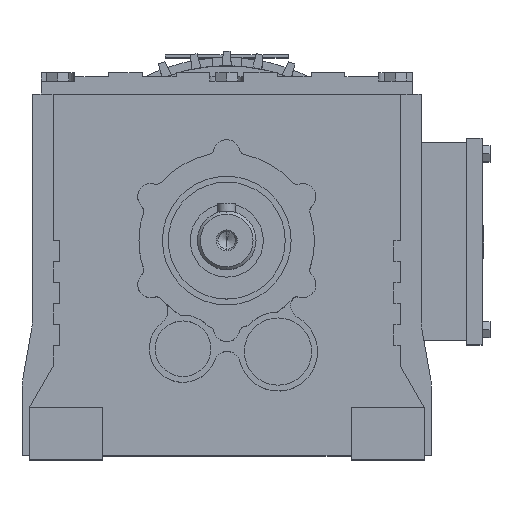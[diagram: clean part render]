
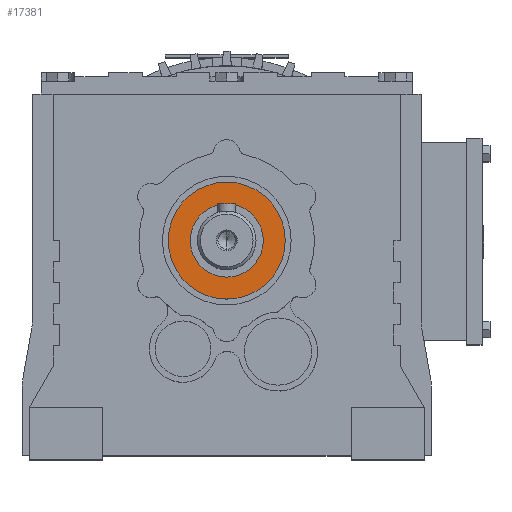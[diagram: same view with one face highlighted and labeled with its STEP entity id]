
A CAD part, top view. The second image highlights one B-rep face of the part: STEP entity #17381.
In plain terms, the highlighted planar face has unit normal (0, 0, 1).
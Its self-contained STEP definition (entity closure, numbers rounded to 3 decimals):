
#17228 = CYLINDRICAL_SURFACE('',#17229,20.);
#17229 = AXIS2_PLACEMENT_3D('',#17230,#17231,#17232);
#17230 = CARTESIAN_POINT('',(0.,0.,174.));
#17231 = DIRECTION('',(0.,0.,1.));
#17232 = DIRECTION('',(0.,-1.,0.));
#17258 = CYLINDRICAL_SURFACE('',#17259,20.);
#17259 = AXIS2_PLACEMENT_3D('',#17260,#17261,#17262);
#17260 = CARTESIAN_POINT('',(0.,0.,174.));
#17261 = DIRECTION('',(0.,0.,1.));
#17262 = DIRECTION('',(0.,-1.,0.));
#17287 = VERTEX_POINT('',#17288);
#17288 = CARTESIAN_POINT('',(0.,20.,131.));
#17309 = VERTEX_POINT('',#17310);
#17310 = CARTESIAN_POINT('',(0.,-20.,131.));
#17329 = EDGE_CURVE('',#17287,#17309,#17330,.T.);
#17330 = SURFACE_CURVE('',#17331,(#17336,#17342),.PCURVE_S1.);
#17331 = CIRCLE('',#17332,20.);
#17332 = AXIS2_PLACEMENT_3D('',#17333,#17334,#17335);
#17333 = CARTESIAN_POINT('',(0.,0.,131.));
#17334 = DIRECTION('',(0.,0.,-1.));
#17335 = DIRECTION('',(-1.,0.,0.));
#17336 = PCURVE('',#17228,#17337);
#17337 = DEFINITIONAL_REPRESENTATION('',(#17338),#17341);
#17338 = B_SPLINE_CURVE_WITH_KNOTS('',1,(#17339,#17340),.UNSPECIFIED.,
  .F.,.F.,(2,2),(1.571,4.712),
  .PIECEWISE_BEZIER_KNOTS.);
#17339 = CARTESIAN_POINT('',(3.142,-43.));
#17340 = CARTESIAN_POINT('',(0.,-43.));
#17341 = ( GEOMETRIC_REPRESENTATION_CONTEXT(2) 
PARAMETRIC_REPRESENTATION_CONTEXT() REPRESENTATION_CONTEXT('2D SPACE',''
  ) );
#17342 = PCURVE('',#17343,#17348);
#17343 = PLANE('',#17344);
#17344 = AXIS2_PLACEMENT_3D('',#17345,#17346,#17347);
#17345 = CARTESIAN_POINT('',(-3.282,15.788,131.));
#17346 = DIRECTION('',(0.,0.,-1.));
#17347 = DIRECTION('',(-1.,0.,0.));
#17348 = DEFINITIONAL_REPRESENTATION('',(#17349),#17353);
#17349 = CIRCLE('',#17350,20.);
#17350 = AXIS2_PLACEMENT_2D('',#17351,#17352);
#17351 = CARTESIAN_POINT('',(-3.282,-15.788));
#17352 = DIRECTION('',(1.,0.));
#17353 = ( GEOMETRIC_REPRESENTATION_CONTEXT(2) 
PARAMETRIC_REPRESENTATION_CONTEXT() REPRESENTATION_CONTEXT('2D SPACE',''
  ) );
#17358 = EDGE_CURVE('',#17309,#17287,#17359,.T.);
#17359 = SURFACE_CURVE('',#17360,(#17365,#17371),.PCURVE_S1.);
#17360 = CIRCLE('',#17361,20.);
#17361 = AXIS2_PLACEMENT_3D('',#17362,#17363,#17364);
#17362 = CARTESIAN_POINT('',(0.,0.,131.));
#17363 = DIRECTION('',(0.,0.,-1.));
#17364 = DIRECTION('',(-1.,0.,0.));
#17365 = PCURVE('',#17258,#17366);
#17366 = DEFINITIONAL_REPRESENTATION('',(#17367),#17370);
#17367 = B_SPLINE_CURVE_WITH_KNOTS('',1,(#17368,#17369),.UNSPECIFIED.,
  .F.,.F.,(2,2),(4.712,7.854),
  .PIECEWISE_BEZIER_KNOTS.);
#17368 = CARTESIAN_POINT('',(6.283,-43.));
#17369 = CARTESIAN_POINT('',(3.142,-43.));
#17370 = ( GEOMETRIC_REPRESENTATION_CONTEXT(2) 
PARAMETRIC_REPRESENTATION_CONTEXT() REPRESENTATION_CONTEXT('2D SPACE',''
  ) );
#17371 = PCURVE('',#17343,#17372);
#17372 = DEFINITIONAL_REPRESENTATION('',(#17373),#17377);
#17373 = CIRCLE('',#17374,20.);
#17374 = AXIS2_PLACEMENT_2D('',#17375,#17376);
#17375 = CARTESIAN_POINT('',(-3.282,-15.788));
#17376 = DIRECTION('',(1.,0.));
#17377 = ( GEOMETRIC_REPRESENTATION_CONTEXT(2) 
PARAMETRIC_REPRESENTATION_CONTEXT() REPRESENTATION_CONTEXT('2D SPACE',''
  ) );
#17381 = ADVANCED_FACE('',(#17382,#17386),#17343,.F.);
#17382 = FACE_BOUND('',#17383,.T.);
#17383 = EDGE_LOOP('',(#17384,#17385));
#17384 = ORIENTED_EDGE('',*,*,#17358,.F.);
#17385 = ORIENTED_EDGE('',*,*,#17329,.F.);
#17386 = FACE_BOUND('',#17387,.T.);
#17387 = EDGE_LOOP('',(#17388,#17422));
#17388 = ORIENTED_EDGE('',*,*,#17389,.F.);
#17389 = EDGE_CURVE('',#17390,#17392,#17394,.T.);
#17390 = VERTEX_POINT('',#17391);
#17391 = CARTESIAN_POINT('',(0.,-12.5,131.));
#17392 = VERTEX_POINT('',#17393);
#17393 = CARTESIAN_POINT('',(0.,12.5,131.));
#17394 = SURFACE_CURVE('',#17395,(#17400,#17411),.PCURVE_S1.);
#17395 = CIRCLE('',#17396,12.5);
#17396 = AXIS2_PLACEMENT_3D('',#17397,#17398,#17399);
#17397 = CARTESIAN_POINT('',(0.,0.,131.));
#17398 = DIRECTION('',(0.,0.,1.));
#17399 = DIRECTION('',(-1.,0.,0.));
#17400 = PCURVE('',#17343,#17401);
#17401 = DEFINITIONAL_REPRESENTATION('',(#17402),#17410);
#17402 = ( BOUNDED_CURVE() B_SPLINE_CURVE(2,(#17403,#17404,#17405,#17406
    ,#17407,#17408,#17409),.UNSPECIFIED.,.F.,.F.) 
B_SPLINE_CURVE_WITH_KNOTS((1,2,2,2,2,1),(-2.094,0.,
    2.094,4.189,6.283,8.378),
.UNSPECIFIED.) CURVE() GEOMETRIC_REPRESENTATION_ITEM() 
RATIONAL_B_SPLINE_CURVE((1.,0.5,1.,0.5,1.,0.5,1.)) REPRESENTATION_ITEM(
  '') );
#17403 = CARTESIAN_POINT('',(9.218,-15.788));
#17404 = CARTESIAN_POINT('',(9.218,-37.438));
#17405 = CARTESIAN_POINT('',(-9.532,-26.613));
#17406 = CARTESIAN_POINT('',(-28.282,-15.788));
#17407 = CARTESIAN_POINT('',(-9.532,-4.962));
#17408 = CARTESIAN_POINT('',(9.218,5.863));
#17409 = CARTESIAN_POINT('',(9.218,-15.788));
#17410 = ( GEOMETRIC_REPRESENTATION_CONTEXT(2) 
PARAMETRIC_REPRESENTATION_CONTEXT() REPRESENTATION_CONTEXT('2D SPACE',''
  ) );
#17411 = PCURVE('',#17412,#17417);
#17412 = CYLINDRICAL_SURFACE('',#17413,12.5);
#17413 = AXIS2_PLACEMENT_3D('',#17414,#17415,#17416);
#17414 = CARTESIAN_POINT('',(0.,0.,174.));
#17415 = DIRECTION('',(0.,0.,1.));
#17416 = DIRECTION('',(0.,-1.,0.));
#17417 = DEFINITIONAL_REPRESENTATION('',(#17418),#17421);
#17418 = B_SPLINE_CURVE_WITH_KNOTS('',1,(#17419,#17420),.UNSPECIFIED.,
  .F.,.F.,(2,2),(1.571,4.712),
  .PIECEWISE_BEZIER_KNOTS.);
#17419 = CARTESIAN_POINT('',(0.,-43.));
#17420 = CARTESIAN_POINT('',(3.142,-43.));
#17421 = ( GEOMETRIC_REPRESENTATION_CONTEXT(2) 
PARAMETRIC_REPRESENTATION_CONTEXT() REPRESENTATION_CONTEXT('2D SPACE',''
  ) );
#17422 = ORIENTED_EDGE('',*,*,#17423,.F.);
#17423 = EDGE_CURVE('',#17392,#17390,#17424,.T.);
#17424 = SURFACE_CURVE('',#17425,(#17430,#17441),.PCURVE_S1.);
#17425 = CIRCLE('',#17426,12.5);
#17426 = AXIS2_PLACEMENT_3D('',#17427,#17428,#17429);
#17427 = CARTESIAN_POINT('',(0.,0.,131.));
#17428 = DIRECTION('',(0.,0.,1.));
#17429 = DIRECTION('',(-1.,0.,0.));
#17430 = PCURVE('',#17343,#17431);
#17431 = DEFINITIONAL_REPRESENTATION('',(#17432),#17440);
#17432 = ( BOUNDED_CURVE() B_SPLINE_CURVE(2,(#17433,#17434,#17435,#17436
    ,#17437,#17438,#17439),.UNSPECIFIED.,.F.,.F.) 
B_SPLINE_CURVE_WITH_KNOTS((1,2,2,2,2,1),(-2.094,0.,
    2.094,4.189,6.283,8.378),
.UNSPECIFIED.) CURVE() GEOMETRIC_REPRESENTATION_ITEM() 
RATIONAL_B_SPLINE_CURVE((1.,0.5,1.,0.5,1.,0.5,1.)) REPRESENTATION_ITEM(
  '') );
#17433 = CARTESIAN_POINT('',(9.218,-15.788));
#17434 = CARTESIAN_POINT('',(9.218,-37.438));
#17435 = CARTESIAN_POINT('',(-9.532,-26.613));
#17436 = CARTESIAN_POINT('',(-28.282,-15.788));
#17437 = CARTESIAN_POINT('',(-9.532,-4.962));
#17438 = CARTESIAN_POINT('',(9.218,5.863));
#17439 = CARTESIAN_POINT('',(9.218,-15.788));
#17440 = ( GEOMETRIC_REPRESENTATION_CONTEXT(2) 
PARAMETRIC_REPRESENTATION_CONTEXT() REPRESENTATION_CONTEXT('2D SPACE',''
  ) );
#17441 = PCURVE('',#17442,#17447);
#17442 = CYLINDRICAL_SURFACE('',#17443,12.5);
#17443 = AXIS2_PLACEMENT_3D('',#17444,#17445,#17446);
#17444 = CARTESIAN_POINT('',(0.,0.,174.));
#17445 = DIRECTION('',(0.,0.,1.));
#17446 = DIRECTION('',(0.,-1.,0.));
#17447 = DEFINITIONAL_REPRESENTATION('',(#17448),#17451);
#17448 = B_SPLINE_CURVE_WITH_KNOTS('',1,(#17449,#17450),.UNSPECIFIED.,
  .F.,.F.,(2,2),(4.712,7.854),
  .PIECEWISE_BEZIER_KNOTS.);
#17449 = CARTESIAN_POINT('',(3.142,-43.));
#17450 = CARTESIAN_POINT('',(6.283,-43.));
#17451 = ( GEOMETRIC_REPRESENTATION_CONTEXT(2) 
PARAMETRIC_REPRESENTATION_CONTEXT() REPRESENTATION_CONTEXT('2D SPACE',''
  ) );
